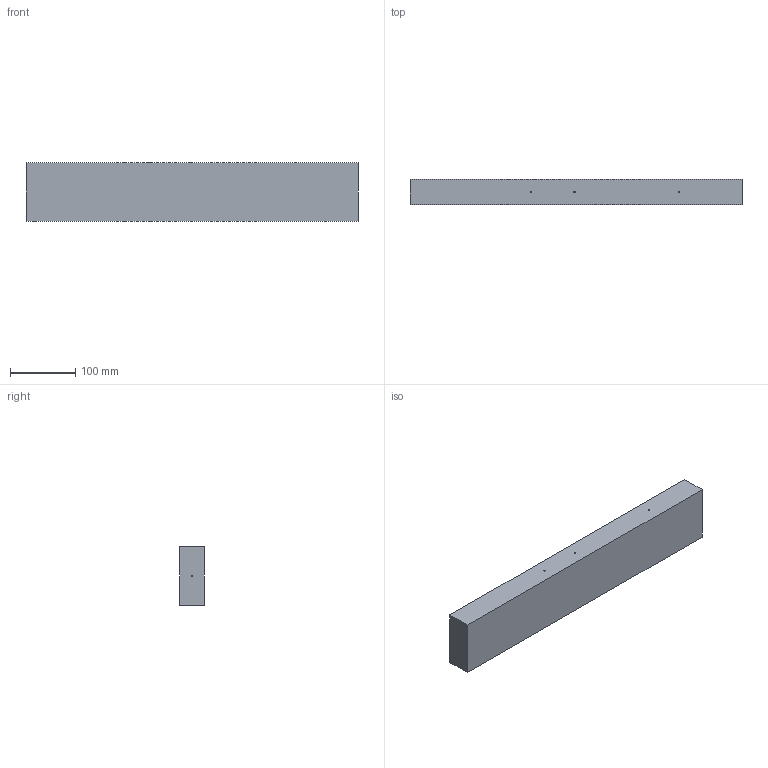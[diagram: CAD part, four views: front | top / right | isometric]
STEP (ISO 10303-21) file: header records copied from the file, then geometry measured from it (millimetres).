
FILE_DESCRIPTION(('FreeCAD Model'),'2;1');
FILE_NAME('/home/jwright/Documents/Mach_30/Shepard_v1.0_CAD/STEP_Files/Shepard_v1.0_Test_Section_Beam_TSBe01.step','2012-11-05T11:14:28',('FreeCAD'),( 'FreeCAD'),'Open CASCADE STEP processor 6.5','FreeCAD','Unknown');
FILE_SCHEMA(('AUTOMOTIVE_DESIGN_CC2 { 1 2 10303 214 -1 1 5 4 }'));
Length unit declared in the file: millimetre
Products named in the file (1): Cut
Bounding box: 508 x 38.1 x 88.9 mm (x, y, z)
Volume: 1719918.4 mm3; surface area: 137047.8 mm2
Topology: 1 solids, 4 shells, 23 faces, 33 edges, 22 vertices
Faces by surface type: plane 16, cylinder 7
Full cylindrical faces by diameter (mm): 2.381 x7
Entity records: 1098 total; most frequent: DIRECTION 161, CARTESIAN_POINT 145, LINE 71, VECTOR 71, ORIENTED_EDGE 66, PCURVE 66, DEFINITIONAL_REPRESENTATION 66, AXIS2_PLACEMENT_3D 38
